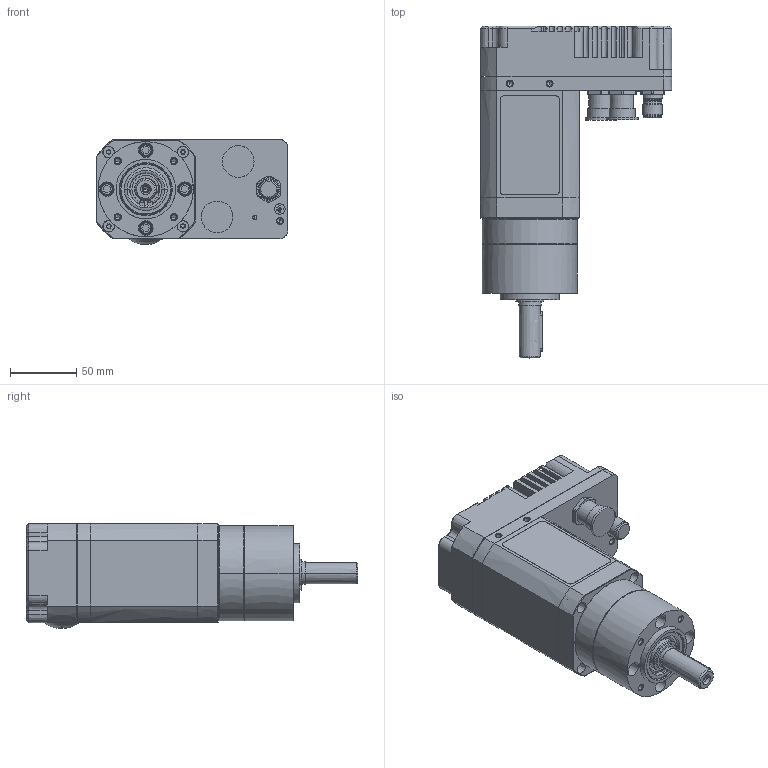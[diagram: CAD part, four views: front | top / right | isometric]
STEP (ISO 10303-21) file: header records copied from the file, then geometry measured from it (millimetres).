
FILE_DESCRIPTION((''),'2;1');
FILE_NAME('80350_PM72_1STAGE','2018-08-29T',('ALECMA1'),('CROUZET-AUTOMATISMES'),'CREO PARAMETRIC BY PTC INC, 2017170','CREO PARAMETRIC BY PTC INC, 2017170','');
FILE_SCHEMA(('AP203_CONFIGURATION_CONTROLLED_3D_DESIGN_OF_MECHANICAL_PARTS_AND_ASSEMBLIES_MIM_LF { 1 0 10303 403 2 1 2 }'));
Products named in the file (1): 80350_PM72_1STAGE
Bounding box: 145 x 251.3 x 79.7 mm (x, y, z)
Surface area: 136867.6 mm2 (no closed solid volume)
Topology: 0 solids, 0 shells, 695 faces, 3561 edges, 3521 vertices
Faces by surface type: bspline 673, torus 18, sphere 4
Entity records: 68302 total; most frequent: CARTESIAN_POINT 30186, DIRECTION 5569, TRIMMED_CURVE 4751, VECTOR 4002, LINE 4002, DEFINITIONAL_REPRESENTATION 3501, PCURVE 3501, COMPOSITE_CURVE_SEGMENT 3501
